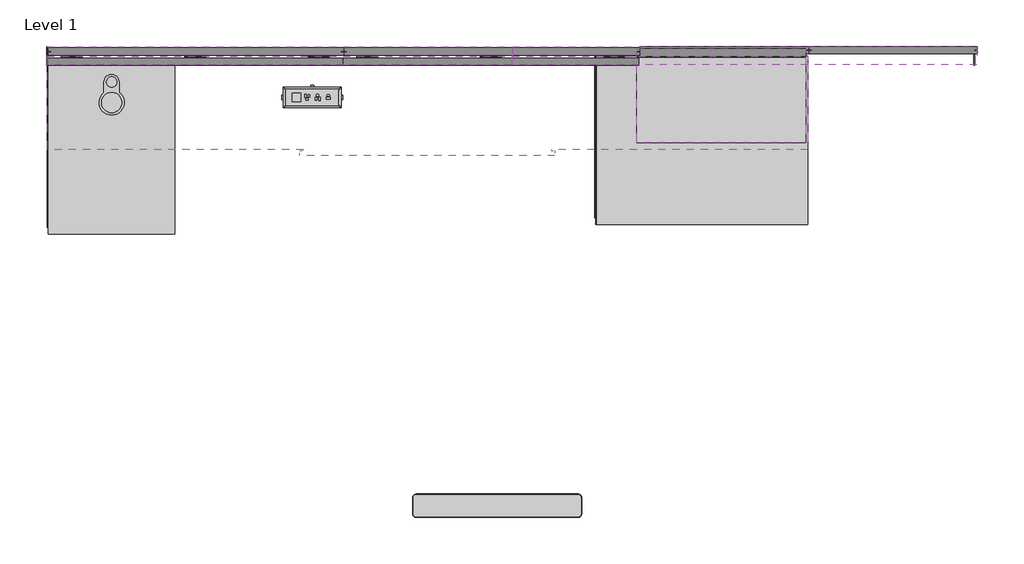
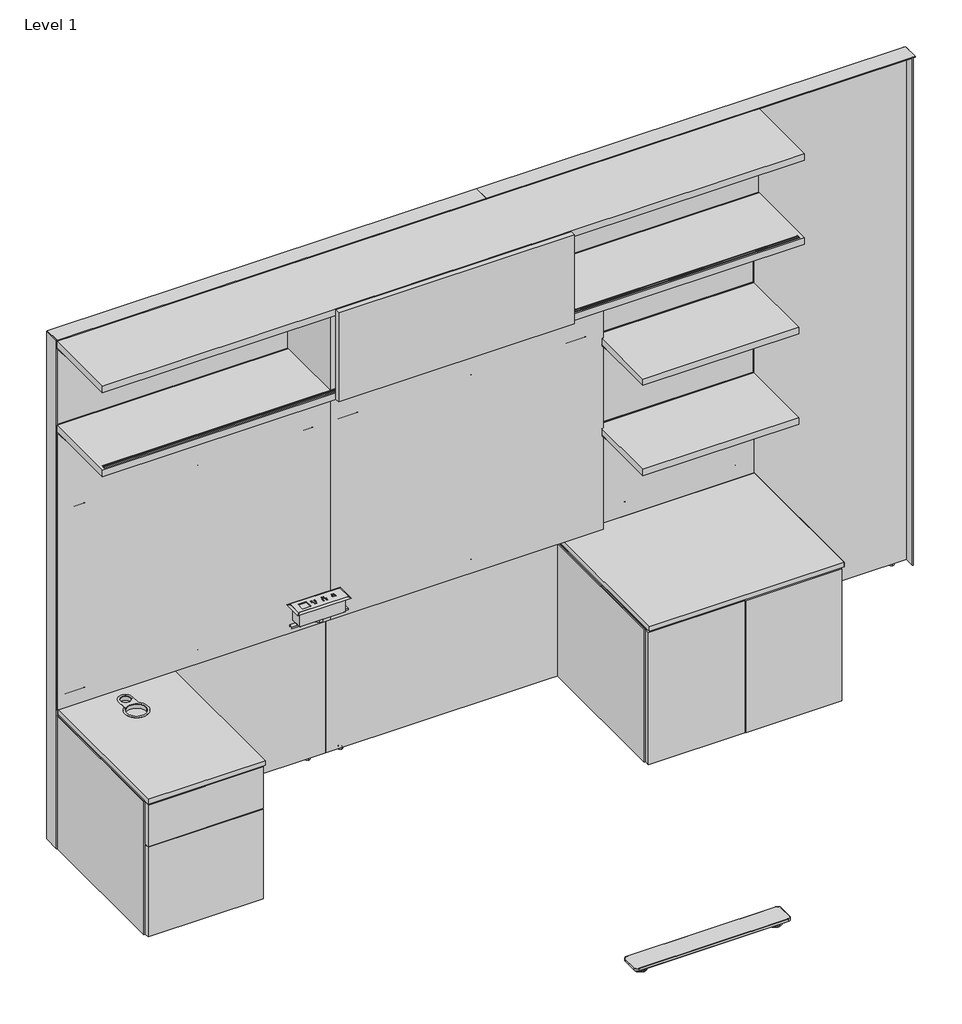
# One storey, incomplete: 20 furniture elements.
"""IFC4 building model written with IfcOpenShell, lengths in millimetres."""

from ifc_helpers import new_model, si_unit, origin, place, context, project, spatial, transform, mapped, element, save
from components import furniture_9a9e18b9, furniture_c23576bc, furniture_ab2c1564, furniture_26ee6ef7, furniture_7f70c17e, furniture_af06311f, furniture_d3c6f52b, furniture_bf2d382f, furniture_a181dc65, furniture_78439a51, furniture_67171f7c, furniture_a66f4f8e, furniture_fe314a8a, in_surface_33791ff7, t_foot_2f0a3af6

model = new_model("IFC4")

# Units and contexts
model_context = context("Model", 3, world=origin())
ifc_project = project(units=[si_unit("LENGTHUNIT", "METRE", prefix="MILLI")], contexts=[model_context])

# Site, building, storey
site = spatial("IfcSite", under=ifc_project)
building = spatial("IfcBuilding", under=site)
storey = spatial("IfcBuildingStorey", under=building, Name="Level 1", Elevation=0.0)

# Furniture
placement = place(None, origin())
furniture_shape = furniture_9a9e18b9(model_context)
element("IfcFurniture", 1, ObjectType="Geiger_GeigerOneCasegoods_WallEndTrim : SingleSided 2.625Wx 0.125Dx 82.625H", at=placement, inside=storey, context=model_context, shape_type="MappedRepresentation", body=[
    mapped(furniture_shape, transform((4497.0055235, 8655.7664215, 12.7), x_axis=(1.0, 0.0, 0.0), y_axis=(0.0, 1.0, 0.0), z_axis=(0.0, 0.0, 1.0))),
])
furniture_2_shape = furniture_c23576bc(model_context)
element("IfcFurniture", 2, ObjectType="Geiger_GeigerOneCasegoods_LowStorage1Box1File : Vertical Veneer 18Wx24Dx21.75H", at=placement, inside=storey, context=model_context, shape_type="MappedRepresentation", body=[
    mapped(furniture_2_shape, transform((1154.9305235, 8622.4289215, 0.0), x_axis=(1.0, 0.0, 0.0), y_axis=(0.0, 1.0, 0.0), z_axis=(0.0, 0.0, 1.0))),
])
furniture_3_shape = furniture_ab2c1564(model_context)
element("IfcFurniture", 3, ObjectType="Geiger_GeigerOneCasegoods_LowStorageHingedDoors : Vertical Veneer 30Wx24Dx21.75H", at=placement, inside=storey, context=model_context, shape_type="MappedRepresentation", body=[
    mapped(furniture_3_shape, transform((3129.7805235, 8655.4289215, 0.0), x_axis=(1.0, 0.0, 0.0), y_axis=(0.0, 1.0, 0.0), z_axis=(0.0, 0.0, 1.0))),
])
furniture_4_shape = furniture_26ee6ef7(model_context)
element("IfcFurniture", 4, ObjectType="Geiger_GeigerOneCasegoods_OverheadStorageDoubleShelfWithSlidingDoor : TFL Shelves TFL Back 108Wx 14.125Dx 14.875H", at=placement, inside=storey, context=model_context, shape_type="MappedRepresentation", body=[
    mapped(furniture_4_shape, transform((1154.9305235, 8661.3367151, 1728.724), x_axis=(1.0, 0.0, 0.0), y_axis=(0.0, 1.0, 0.0), z_axis=(0.0, 0.0, 1.0))),
])
furniture_5_shape = furniture_7f70c17e(model_context)
element("IfcFurniture", 5, ObjectType="Geiger_GeigerOneCasegoods_OverheadStorageSingleShelfFullBackPanel : TFL 24Wx 13.375Dx 14.875H", at=placement, inside=storey, context=model_context, shape_type="MappedRepresentation", body=[
    mapped(furniture_5_shape, transform((3282.1805235, 8687.3367151, 971.804), x_axis=(1.0, 0.0, 0.0), y_axis=(0.0, 1.0, 0.0), z_axis=(0.0, 0.0, 1.0))),
])
element("IfcFurniture", 6, ObjectType="Geiger_GeigerOneCasegoods_OverheadStorageSingleShelfFullBackPanel : TFL 24Wx 13.375Dx 14.875H", at=placement, inside=storey, context=model_context, shape_type="MappedRepresentation", body=[
    mapped(furniture_5_shape, transform((3282.1805235, 8687.3367151, 1344.804), x_axis=(1.0, 0.0, 0.0), y_axis=(0.0, 1.0, 0.0), z_axis=(0.0, 0.0, 1.0))),
])
furniture_6_shape = furniture_af06311f(model_context)
element("IfcFurniture", 7, ObjectType="Geiger_GeigerOneCasegoods_WallTileAcceptsTileAbove : TFL 24Wx 1.25Dx 15H", at=placement, inside=storey, context=model_context, shape_type="MappedRepresentation", body=[
    mapped(furniture_6_shape, transform((3282.1805235, 8673.8289215, 590.804), x_axis=(1.0, 0.0, 0.0), y_axis=(0.0, 1.0, 0.0), z_axis=(0.0, 0.0, 1.0))),
])
furniture_7_shape = furniture_d3c6f52b(model_context)
element("IfcFurniture", 8, ObjectType="Geiger_GeigerOneCasegoods_CredenzaTopLowHeightWithLegGrommet : Veneer 18Wx 24Dx 0.75H", at=placement, inside=storey, context=model_context, shape_type="MappedRepresentation", body=[
    mapped(furniture_7_shape, transform((1157.9305235, 8621.9289215, 565.404), x_axis=(1.0, 0.0, 0.0), y_axis=(0.0, 1.0, 0.0), z_axis=(0.0, 0.0, 1.0))),
])
furniture_8_shape = furniture_bf2d382f(model_context)
element("IfcFurniture", 9, ObjectType="Geiger_GeigerOneCasegoods_CredenzaTopLowHeightPlainVeneer : Veneer 30Wx 24Dx 0.75H", at=placement, inside=storey, context=model_context, shape_type="MappedRepresentation", body=[
    mapped(furniture_8_shape, transform((3135.988362, 8655.2289215, 565.404), x_axis=(1.0, 0.0, 0.0), y_axis=(0.0, 1.0, 0.0), z_axis=(0.0, 0.0, 1.0))),
])
element("IfcFurniture", 10, ObjectType="Geiger_GeigerOneCasegoods_WallEndTrim : SingleSided 2.625Wx 0.125Dx 82.625H", at=placement, inside=storey, context=model_context, shape_type="MappedRepresentation", body=[
    mapped(furniture_shape, transform((1151.7555235, 8655.7664215, 12.7), x_axis=(1.0, 0.0, 0.0), y_axis=(0.0, 1.0, 0.0), z_axis=(0.0, 0.0, 1.0))),
])
furniture_9_shape = furniture_a181dc65(model_context)
element("IfcFurniture", 11, ObjectType="Geiger_GeigerOneCasegoods_WallTopTrimSingleSidedWall : 66Wx2.625Dx0.125H", at=placement, inside=storey, context=model_context, shape_type="MappedRepresentation", body=[
    mapped(furniture_9_shape, transform((1154.9305235, 8656.1039215, 2108.708), x_axis=(1.0, 0.0, 0.0), y_axis=(0.0, 1.0, 0.0), z_axis=(0.0, 0.0, 1.0))),
])
furniture_10_shape = furniture_78439a51(model_context)
element("IfcFurniture", 12, ObjectType="Geiger_GeigerOneCasegoods_WallTopTrimSingleSidedWall : 66Wx2.625Dx0.125H", at=placement, inside=storey, context=model_context, shape_type="MappedRepresentation", body=[
    mapped(furniture_10_shape, transform((4507.7305235, 8656.1039215, 2108.708), x_axis=(-1.0, 0.0, 0.0), y_axis=(0.0, -1.0, 0.0), z_axis=(0.0, 0.0, 1.0))),
])
furniture_11_shape = furniture_67171f7c(model_context)
element("IfcFurniture", 13, ObjectType="Geiger_GeigerOneCasegoods_WallFrameStandardApplication : 42Wx1Dx82.5H", at=placement, inside=storey, context=model_context, shape_type="MappedRepresentation", body=[
    mapped(furniture_11_shape, transform((1157.9305235, 8684.0239215, 0.0), x_axis=(1.0, 0.0, 0.0), y_axis=(0.0, 1.0, 0.0), z_axis=(0.0, 0.0, 1.0))),
])
element("IfcFurniture", 14, ObjectType="Geiger_GeigerOneCasegoods_WallFrameStandardApplication : 42Wx1Dx82.5H", at=placement, inside=storey, context=model_context, shape_type="MappedRepresentation", body=[
    mapped(furniture_11_shape, transform((2224.7305235, 8684.0239215, 0.0), x_axis=(1.0, 0.0, 0.0), y_axis=(0.0, 1.0, 0.0), z_axis=(0.0, 0.0, 1.0))),
])
furniture_12_shape = furniture_a66f4f8e(model_context)
element("IfcFurniture", 15, ObjectType="Geiger_GeigerOneCasegoods_WallFrameStandardApplication : 24Wx1Dx82.5H", at=placement, inside=storey, context=model_context, shape_type="MappedRepresentation", body=[
    mapped(furniture_12_shape, transform((3291.5305235, 8689.1039215, 0.0), x_axis=(1.0, 0.0, 0.0), y_axis=(0.0, 1.0, 0.0), z_axis=(0.0, 0.0, 1.0))),
])
element("IfcFurniture", 16, ObjectType="Geiger_GeigerOneCasegoods_WallFrameStandardApplication : 24Wx1Dx82.5H", at=placement, inside=storey, context=model_context, shape_type="MappedRepresentation", body=[
    mapped(furniture_12_shape, transform((3901.1305235, 8689.1039215, 0.0), x_axis=(1.0, 0.0, 0.0), y_axis=(0.0, 1.0, 0.0), z_axis=(0.0, 0.0, 1.0))),
])
furniture_13_shape = furniture_fe314a8a(model_context)
element("IfcFurniture", 17, ObjectType="Geiger_GeigerOneCasegoods_WallTileAcceptsTileAbove : Vertical Veneer 42Wx 1.25Dx 45H", at=placement, inside=storey, context=model_context, shape_type="MappedRepresentation", body=[
    mapped(furniture_13_shape, transform((2221.1749572, 8647.2426564, 585.1906), x_axis=(1.0, 0.0, 0.0), y_axis=(0.0, 1.0, 0.0), z_axis=(0.0, 0.0, 1.0))),
])
element("IfcFurniture", 18, ObjectType="Geiger_GeigerOneCasegoods_WallTileAcceptsTileAbove : Vertical Veneer 42Wx 1.25Dx 45H", at=placement, inside=storey, context=model_context, shape_type="MappedRepresentation", body=[
    mapped(furniture_13_shape, transform((1154.3749572, 8647.2426564, 585.1906), x_axis=(1.0, 0.0, 0.0), y_axis=(0.0, 1.0, 0.0), z_axis=(0.0, 0.0, 1.0))),
])
in_surface_shape = in_surface_33791ff7(model_context)
element("IfcFurniture", 19, ObjectType="Geiger_GeigerOneCasegoods_PowerComponent2PowerOutlets1USBA1USBC : In Surface", at=placement, inside=storey, context=model_context, shape_type="MappedRepresentation", body=[
    mapped(in_surface_shape, transform((2110.6700391, 8505.6001386, 769.5946), x_axis=(1.0, 0.0, 0.0), y_axis=(0.0, 1.0, 0.0), z_axis=(0.0, 0.0, 1.0))),
])
t_foot_shape = t_foot_2f0a3af6(model_context)
element("IfcFurniture", 20, ObjectType="Geiger_GeigerOneCasegoods_LegSupport : T Foot", at=placement, inside=storey, context=model_context, shape_type="MappedRepresentation", body=[
    mapped(t_foot_shape, transform((2777.6541581, 7031.147283, 9.0), x_axis=(1.0, 0.0, 0.0), y_axis=(0.0, 1.0, 0.0), z_axis=(0.0, 0.0, 1.0))),
])

save(model, "model.ifc")
